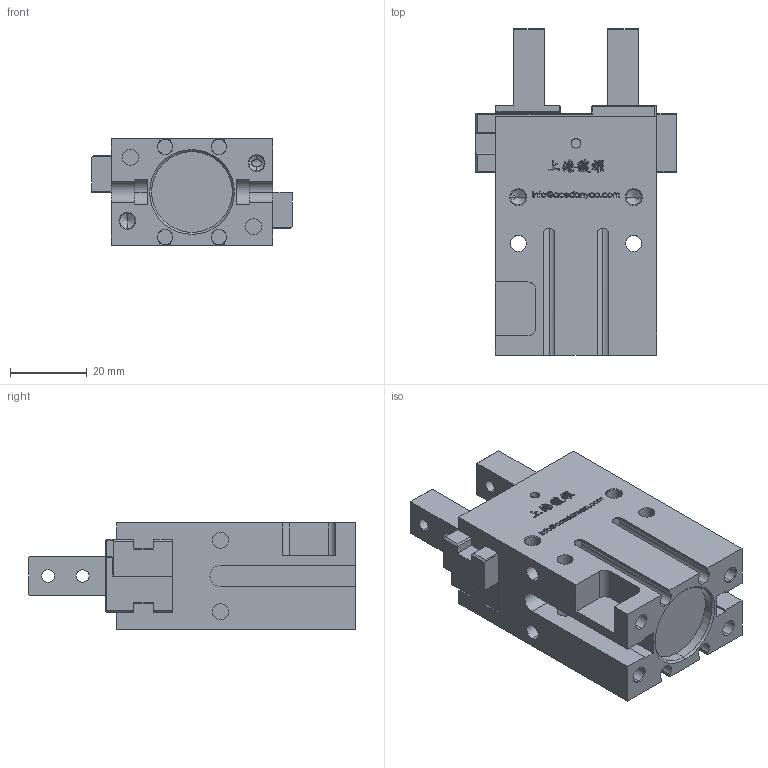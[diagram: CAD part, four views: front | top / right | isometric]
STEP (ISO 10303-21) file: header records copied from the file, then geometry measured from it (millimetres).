
FILE_DESCRIPTION (( 'STEP AP203' ), '1' );
FILE_NAME ('PEP-20-C1-VS-原始檔-組合-W106.04.20.STEP', '2017-04-20T02:30:18', ( 'DanyaoCAD' ), ( '' ), 'SwSTEP 2.0', 'SolidWorks 2016', '' );
FILE_SCHEMA (( 'CONFIG_CONTROL_DESIGN' ));
Length unit declared in the file: millimetre
Products named in the file (3): Griffa; Corpo; PEP-20-C1-VS-原始檔-組合-W106.04.20
Assembly tree (3 placements, depth 2):
  PEP-20-C1-VS-原始檔-組合-W106.04.20
    Griffa  x2
    Corpo
Bounding box: 52 x 84.8 x 27.6 mm (x, y, z)
Volume: 66416.1 mm3; surface area: 24467.8 mm2
Topology: 3 solids, 3 shells, 1020 faces, 2867 edges, 1899 vertices
Faces by surface type: bspline 640, plane 287, cylinder 75, cone 18
Entity records: 48262 total; most frequent: CARTESIAN_POINT 26954, ORIENTED_EDGE 5498, EDGE_CURVE 2749, DIRECTION 2293, VERTEX_POINT 1826, LINE 1299, VECTOR 1299, B_SPLINE_CURVE_WITH_KNOTS 1298
